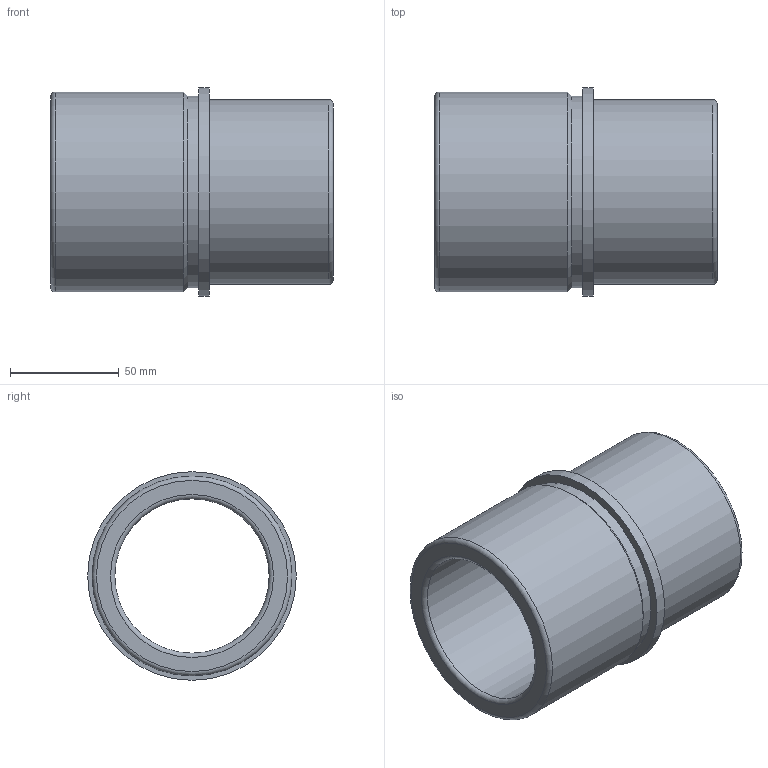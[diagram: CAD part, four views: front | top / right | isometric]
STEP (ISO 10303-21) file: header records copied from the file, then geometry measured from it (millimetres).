
FILE_DESCRIPTION( ( 'STEP AP214' ), '1' );
FILE_NAME( 'p:/temp/worker_56/temp/exporttempdir_4248_149_0psdl/format_0/WZ - 4053 63 x 130 - 71.stp', '2020-12-06T13:46:27', ( 'License CC BY-ND 4.0' ), ( 'CADENAS' ), ' ', 'PARTsolutions', ' ' );
FILE_SCHEMA( ( 'AUTOMOTIVE_DESIGN { 1 0 10303 214 1 1 1 1 }' ) );
Length unit declared in the file: millimetre
Products named in the file (1): _WZ - 4053 63 x 130 - 71
Bounding box: 130 x 96 x 96 mm (x, y, z)
Volume: 292722.9 mm3; surface area: 71801.8 mm2
Topology: 1 solids, 1 shells, 14 faces, 24 edges, 14 vertices
Faces by surface type: cylinder 5, plane 4, torus 4, cone 1
Full cylindrical faces by diameter (mm): 71 x1, 85 x1, 88 x1, 92 x1, 96 x1
Entity records: 416 total; most frequent: DIRECTION 58, CARTESIAN_POINT 43, AXIS2_PLACEMENT_3D 29, EDGE_LOOP 28, ORIENTED_EDGE 28, FACE_OUTER_BOUND 23, STYLED_ITEM 14, PRESENTATION_STYLE_ASSIGNMENT 14
